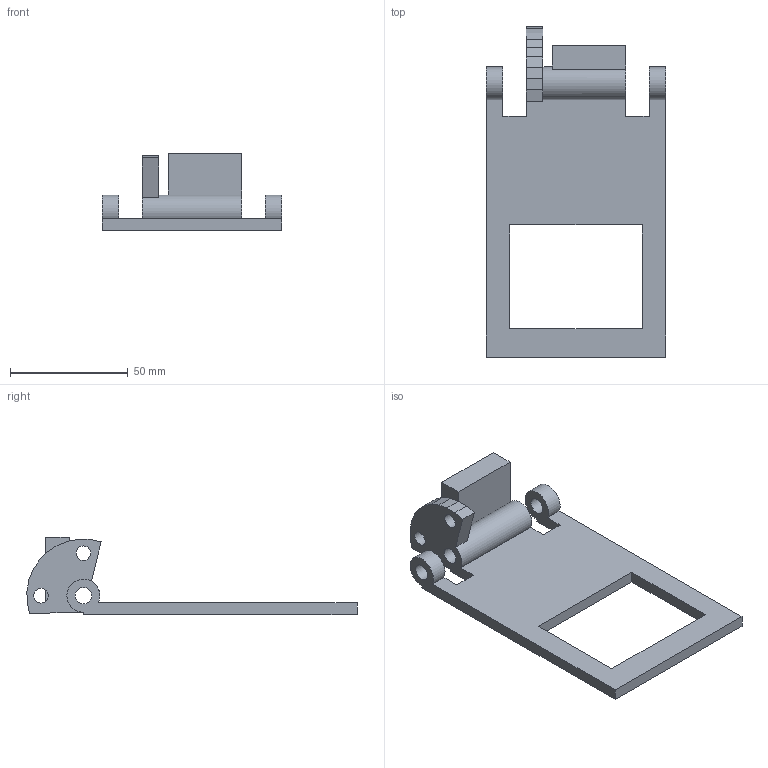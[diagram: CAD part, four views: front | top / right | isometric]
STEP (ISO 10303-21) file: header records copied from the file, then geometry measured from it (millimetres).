
FILE_DESCRIPTION(('Open CASCADE Model'),'2;1');
FILE_NAME('Open CASCADE Shape Model','2026-10-15T19:48:39',('Author'),( 'Open CASCADE'),'Open CASCADE STEP processor 7.9','Open CASCADE 7.9' ,'Unknown');
FILE_SCHEMA(('AUTOMOTIVE_DESIGN { 1 0 10303 214 1 1 1 1 }'));
Length unit declared in the file: millimetre
Products named in the file (1): Open CASCADE STEP translator 7.9 8
Bounding box: 76 x 139.92 x 32.7 mm (x, y, z)
Volume: 47996.4 mm3; surface area: 22926.5 mm2
Topology: 1 solids, 1 shells, 45 faces, 128 edges, 85 vertices
Faces by surface type: plane 37, cylinder 8
Full cylindrical faces by diameter (mm): 6.2 x2, 7 x3
Entity records: 3169 total; most frequent: CARTESIAN_POINT 641, DIRECTION 449, LINE 316, VECTOR 316, ORIENTED_EDGE 256, PCURVE 256, DEFINITIONAL_REPRESENTATION 256, EDGE_CURVE 128
